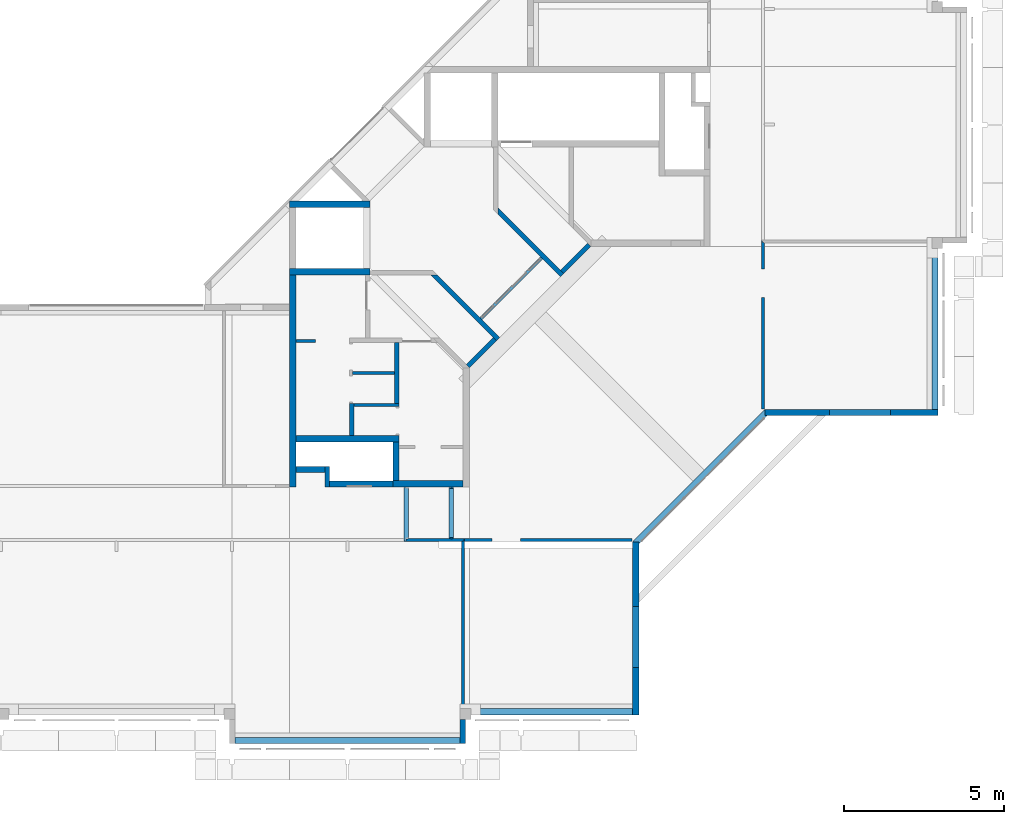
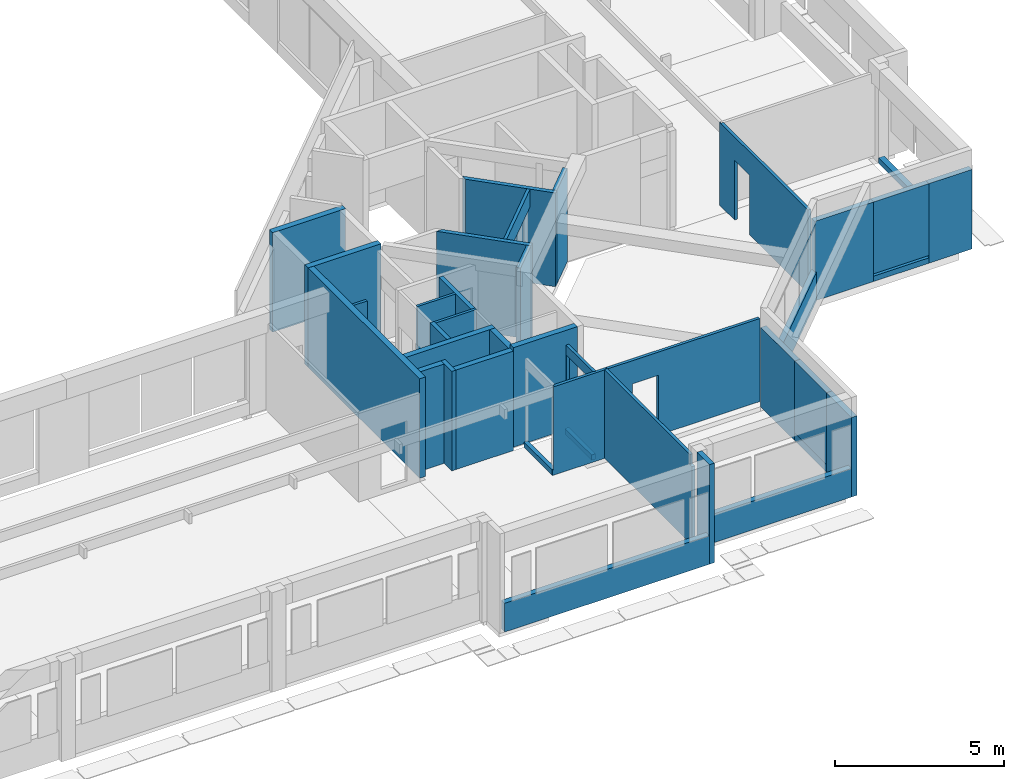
# One storey, part 14 of 26: 39 walls.
"""IFC4X3_ADD2 building model written with IfcOpenShell, lengths in millimetres."""

from ifc_helpers import new_model, si_unit, direction, frame, frame_2d, origin_with_axes, origin_2d_with_axis, place, context, subcontext, project, spatial, polyline, rectangle, outline, extrude, source, transform, mapped, material, type_object, type_shapes, element, save


model = new_model("IFC4X3_ADD2")

# Units and contexts
model_context = context("Model", 3, precision=1e-05, world=origin_with_axes(), true_north=direction((0.0, 1.0)))
body_context = subcontext(model_context, "Body", "Model", "MODEL_VIEW")
ifc_project = project(units=[si_unit("LENGTHUNIT", "METRE", prefix="MILLI"), si_unit("AREAUNIT", "SQUARE_METRE"), si_unit("VOLUMEUNIT", "CUBIC_METRE"), si_unit("PLANEANGLEUNIT", "RADIAN"), si_unit("TIMEUNIT", "SECOND"), si_unit("MASSUNIT", "GRAM")], contexts=[model_context])

# Site, building, storey
site_placement = place(None, origin_with_axes())
site = spatial("IfcSite", under=ifc_project, at=site_placement, Name="Site", CompositionType="ELEMENT")
building_placement = place(site_placement, origin_with_axes())
building = spatial("IfcBuilding", under=site, at=building_placement, Name="IFC Building Story")
storey_placement = place(building_placement, frame((0.0, 0.0, 7200.0), z_axis=(0.0, 0.0, 1.0), x_axis=(1.0, 0.0, 0.0)))
storey = spatial("IfcBuildingStorey", under=building, at=storey_placement, Name="020", Elevation=7200.0)

# Walls
ifc_material_1 = material(Name="BB_Beton_Bestaand")
wall_type_1 = type_object("IfcWallType", Name="BB_Beton_Bestaand 200", PredefinedType="NOTDEFINED", material=ifc_material_1)
wall_1_placement = place(storey_placement, origin_with_axes())
element("IfcWall", 1, at=wall_1_placement, inside=storey, type_object=wall_type_1, Name="Basic Wall:BB_XX_Wand uit beton, 200 mm", ObjectType="Basic Wall:BB_XX_Wand uit beton, 200 mm", PredefinedType="SOLIDWALL", context=body_context, shape_type="SweptSolid", body=[
    extrude(rectangle(XDim=2499.999999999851, YDim=199.9999999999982, at=origin_2d_with_axis()), frame((-18849.99999999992, 13715.0, -80.0), z_axis=(0.0, 0.0, 1.0), x_axis=(1.0, 0.0, 0.0)), (0.0, 0.0, 1.0), 3600.0),
])
wall_2_placement = place(storey_placement, origin_with_axes())
element("IfcWall", 2, at=wall_2_placement, inside=storey, type_object=wall_type_1, Name="Basic Wall:BB_XX_Wand uit beton, 200 mm", ObjectType="Basic Wall:BB_XX_Wand uit beton, 200 mm", PredefinedType="SOLIDWALL", context=body_context, shape_type="SweptSolid", body=[
    extrude(rectangle(XDim=2499.999999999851, YDim=199.9999999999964, at=origin_2d_with_axis()), frame((-18850.00000000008, 15815.0, -80.0), z_axis=(0.0, 0.0, 1.0), x_axis=(1.0, 0.0, 0.0)), (0.0, 0.0, 1.0), 3600.0),
])
wall_3_placement = place(storey_placement, origin_with_axes())
element("IfcWall", 3, at=wall_3_placement, inside=storey, type_object=wall_type_1, Name="Basic Wall:BB_XX_Wand uit beton, 200 mm", ObjectType="Basic Wall:BB_XX_Wand uit beton, 200 mm", PredefinedType="SOLIDWALL", context=body_context, shape_type="SweptSolid", body=[
    extrude(rectangle(XDim=6615.0, YDim=200.0, at=frame_2d((0.0, 0.0), x_axis=(0.0, 1.0))), frame((-20000.0, 10307.5, -80.0), z_axis=(0.0, 0.0, 1.0), x_axis=(1.0, 0.0, 0.0)), (0.0, 0.0, 1.0), 3600.0),
])
wall_4_placement = place(storey_placement, origin_with_axes())
element("IfcWall", 4, at=wall_4_placement, inside=storey, type_object=wall_type_1, Name="Basic Wall:BB_XX_Wand uit beton, 200 mm", ObjectType="Basic Wall:BB_XX_Wand uit beton, 200 mm", PredefinedType="SOLIDWALL", context=body_context, shape_type="SweptSolid", body=[
    extrude(rectangle(XDim=2190.0, YDim=200.0, at=origin_2d_with_axis()), frame((-15795.0, 7100.0, -80.0), z_axis=(0.0, 0.0, 1.0), x_axis=(1.0, 0.0, 0.0)), (0.0, 0.0, 1.0), 3600.0),
])
wall_type_2 = type_object("IfcWallType", Name="BB_Beton_Bestaand 190", PredefinedType="NOTDEFINED", material=ifc_material_1)
wall_5_placement = place(storey_placement, origin_with_axes())
element("IfcWall", 5, at=wall_5_placement, inside=storey, type_object=wall_type_2, Name="Basic Wall:BB_XX_Wand uit beton, 190 mm", ObjectType="Basic Wall:BB_XX_Wand uit beton, 190 mm", PredefinedType="SOLIDWALL", context=body_context, shape_type="SweptSolid", body=[
    extrude(rectangle(XDim=7010.000000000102, YDim=190.0, at=origin_2d_with_axis()), frame((-18300.00000000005, -900.0, -200.0), z_axis=(0.0, 0.0, 1.0), x_axis=(1.0, 0.0, 0.0)), (0.0, 0.0, 1.0), 1040.0),
])
wall_6_placement = place(storey_placement, origin_with_axes())
element("IfcWall", 6, at=wall_6_placement, inside=storey, type_object=wall_type_2, Name="Basic Wall:BB_XX_Wand uit beton, 190 mm", ObjectType="Basic Wall:BB_XX_Wand uit beton, 190 mm", PredefinedType="SOLIDWALL", context=body_context, shape_type="SweptSolid", body=[
    extrude(rectangle(XDim=5040.000000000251, YDim=190.0, at=origin_2d_with_axis()), frame((-11935.00000000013, 0.0, -200.0), z_axis=(0.0, 0.0, 1.0), x_axis=(1.0, 0.0, 0.0)), (0.0, 0.0, 1.0), 1040.0),
])
wall_7_placement = place(storey_placement, origin_with_axes())
element("IfcWall", 7, at=wall_7_placement, inside=storey, type_object=wall_type_2, Name="Basic Wall:BB_XX_Wand uit beton, 190 mm", ObjectType="Basic Wall:BB_XX_Wand uit beton, 190 mm", PredefinedType="SOLIDWALL", context=body_context, shape_type="SweptSolid", body=[
    extrude(rectangle(XDim=1890.00000000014, YDim=190.0, at=frame_2d((0.0, 0.0), x_axis=(0.0, 1.0))), frame((-9320.0, 2330.00000000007, -200.0), z_axis=(0.0, 0.0, 1.0), x_axis=(1.0, 0.0, 0.0)), (0.0, 0.0, 1.0), 280.000000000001),
])
wall_8_placement = place(storey_placement, origin_with_axes())
element("IfcWall", 8, at=wall_8_placement, inside=storey, type_object=wall_type_2, Name="Basic Wall:BB_XX_Wand uit beton, 190 mm", ObjectType="Basic Wall:BB_XX_Wand uit beton, 190 mm", PredefinedType="SOLIDWALL", context=body_context, shape_type="SweptSolid", body=[
    extrude(rectangle(XDim=1480.0, YDim=190.0, at=frame_2d((0.0, 0.0), x_axis=(0.0, 1.0))), frame((-9320.0, 644.999999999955, -200.0), z_axis=(0.0, 0.0, 1.0), x_axis=(1.0, 0.0, 0.0)), (0.0, 0.0, 1.0), 2880.0),
])
wall_9_placement = place(storey_placement, origin_with_axes())
element("IfcWall", 9, at=wall_9_placement, inside=storey, type_object=wall_type_2, Name="Basic Wall:BB_XX_Wand uit beton, 190 mm", ObjectType="Basic Wall:BB_XX_Wand uit beton, 190 mm", PredefinedType="SOLIDWALL", context=body_context, shape_type="SweptSolid", body=[
    extrude(rectangle(XDim=2014.99999999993, YDim=190.0, at=frame_2d((0.0, 0.0), x_axis=(0.0, 1.0))), frame((-9320.0, 4282.499999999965, -200.0), z_axis=(0.0, 0.0, 1.0), x_axis=(1.0, 0.0, 0.0)), (0.0, 0.0, 1.0), 2880.0),
])
wall_10_placement = place(storey_placement, origin_with_axes())
element("IfcWall", 10, at=wall_10_placement, inside=storey, type_object=wall_type_2, Name="Basic Wall:BB_XX_Wand uit beton, 190 mm", ObjectType="Basic Wall:BB_XX_Wand uit beton, 190 mm", PredefinedType="SOLIDWALL", context=body_context, shape_type="SweptSolid", body=[
    extrude(rectangle(XDim=1890.0, YDim=190.0, at=origin_2d_with_axis()), frame((-2330.0, 9320.0, -200.0), z_axis=(0.0, 0.0, 1.0), x_axis=(1.0, 0.0, 0.0)), (0.0, 0.0, 1.0), 194.999999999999),
])
wall_11_placement = place(storey_placement, origin_with_axes())
element("IfcWall", 11, at=wall_11_placement, inside=storey, type_object=wall_type_2, Name="Basic Wall:BB_XX_Wand uit beton, 190 mm", ObjectType="Basic Wall:BB_XX_Wand uit beton, 190 mm", PredefinedType="SOLIDWALL", context=body_context, shape_type="SweptSolid", body=[
    extrude(rectangle(XDim=1479.99999999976, YDim=190.0, at=origin_2d_with_axis()), frame((-644.99999999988, 9320.0, -200.0), z_axis=(0.0, 0.0, 1.0), x_axis=(1.0, 0.0, 0.0)), (0.0, 0.0, 1.0), 2880.0),
])
wall_12_placement = place(storey_placement, origin_with_axes())
element("IfcWall", 12, at=wall_12_placement, inside=storey, type_object=wall_type_2, Name="Basic Wall:BB_XX_Wand uit beton, 190 mm", ObjectType="Basic Wall:BB_XX_Wand uit beton, 190 mm", PredefinedType="SOLIDWALL", context=body_context, shape_type="SweptSolid", body=[
    extrude(rectangle(XDim=2015.00000000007, YDim=190.0, at=origin_2d_with_axis()), frame((-4282.500000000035, 9320.0, -200.0), z_axis=(0.0, 0.0, 1.0), x_axis=(1.0, 0.0, 0.0)), (0.0, 0.0, 1.0), 2880.0),
])
wall_13_placement = place(storey_placement, origin_with_axes())
element("IfcWall", 13, at=wall_13_placement, inside=storey, type_object=wall_type_2, Name="Basic Wall:BB_XX_Wand uit beton, 190 mm", ObjectType="Basic Wall:BB_XX_Wand uit beton, 190 mm", PredefinedType="SOLIDWALL", context=body_context, shape_type="SweptSolid", body=[
    extrude(rectangle(XDim=5040.000000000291, YDim=190.0, at=frame_2d((0.0, 0.0), x_axis=(0.0, 1.0))), frame((0.0, 11934.99999999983, -200.0), z_axis=(0.0, 0.0, 1.0), x_axis=(1.0, 0.0, 0.0)), (0.0, 0.0, 1.0), 194.999999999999),
])
wall_type_3 = type_object("IfcWallType", Name="BB_Beton_Bestaand 170", PredefinedType="NOTDEFINED", material=ifc_material_1)
wall_14_placement = place(storey_placement, origin_with_axes())
element("IfcWall", 14, at=wall_14_placement, inside=storey, type_object=wall_type_3, Name="Basic Wall:BB_XX_Wand uit beton, 170 mm", ObjectType="Basic Wall:BB_XX_Wand uit beton, 170 mm", PredefinedType="SOLIDWALL", context=body_context, shape_type="SweptSolid", body=[
    extrude(rectangle(XDim=750.000000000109, YDim=170.0, at=frame_2d((0.0, 0.0), x_axis=(0.0, 1.0))), frame((-14710.0, -620.0000000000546, -200.0), z_axis=(0.0, 0.0, 1.0), x_axis=(1.0, 0.0, 0.0)), (0.0, 0.0, 1.0), 3600.0),
])
ifc_material_2 = material(Name="BB_Metselwerk_Bestaand")
wall_type_4 = type_object("IfcWallType", Name="BB_Metselwerk_Bestaand 140", PredefinedType="NOTDEFINED", material=ifc_material_2)
wall_15_placement = place(storey_placement, origin_with_axes())
element("IfcWall", 15, at=wall_15_placement, inside=storey, type_object=wall_type_4, Name="Basic Wall:BB_XX_Wand uit metselwerk, 140 mm", ObjectType="Basic Wall:BB_XX_Wand uit metselwerk, 140 mm", PredefinedType="SOLIDWALL", context=body_context, shape_type="SweptSolid", body=[
    extrude(rectangle(XDim=639.9999999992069, YDim=140.0, at=frame_2d((0.0, 0.0), x_axis=(0.0, 1.0))), frame((-18930.1640790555, 7319.999999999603, -200.0), z_axis=(0.0, 0.0, 1.0), x_axis=(1.0, 0.0, 0.0)), (0.0, 0.0, 1.0), 3600.0),
])
wall_16_placement = place(storey_placement, origin_with_axes())
element("IfcWall", 16, at=wall_16_placement, inside=storey, type_object=wall_type_4, Name="Basic Wall:BB_XX_Wand uit metselwerk, 140 mm", ObjectType="Basic Wall:BB_XX_Wand uit metselwerk, 140 mm", PredefinedType="SOLIDWALL", context=body_context, shape_type="SweptSolid", body=[
    extrude(rectangle(XDim=1000.0, YDim=140.0, at=frame_2d((0.0, 0.0), x_axis=(0.0, 1.0))), frame((-18170.0, 9100.0, -80.0), z_axis=(0.0, 0.0, 1.0), x_axis=(1.0, 0.0, 0.0)), (0.0, 0.0, 1.0), 3400.0),
])
wall_17_placement = place(storey_placement, origin_with_axes())
element("IfcWall", 17, at=wall_17_placement, inside=storey, type_object=wall_type_4, Name="Basic Wall:BB_XX_Wand uit metselwerk, 140 mm", ObjectType="Basic Wall:BB_XX_Wand uit metselwerk, 140 mm", PredefinedType="SOLIDWALL", context=body_context, shape_type="SweptSolid", body=[
    extrude(rectangle(XDim=1910.00000000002, YDim=140.0, at=frame_2d((0.0, 0.0), x_axis=(0.0, 1.0))), frame((-16770.0, 10554.99999999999, -80.0), z_axis=(0.0, 0.0, 1.0), x_axis=(1.0, 0.0, 0.0)), (0.0, 0.0, 1.0), 3400.0),
])
wall_type_5 = type_object("IfcWallType", Name="BB_Metselwerk_Bestaand 190", PredefinedType="NOTDEFINED", material=ifc_material_2)
wall_18_placement = place(storey_placement, origin_with_axes())
element("IfcWall", 18, at=wall_18_placement, inside=storey, type_object=wall_type_5, Name="Basic Wall:BB_XX_Wand uit metselwerk, 190 mm", ObjectType="Basic Wall:BB_XX_Wand uit metselwerk, 190 mm", PredefinedType="SOLIDWALL", context=body_context, shape_type="SweptSolid", body=[
    extrude(rectangle(XDim=1970.164079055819, YDim=190.0, at=origin_2d_with_axis()), frame((-17875.08203952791, 7095.0, -200.0), z_axis=(0.0, 0.0, 1.0), x_axis=(1.0, 0.0, 0.0)), (0.0, 0.0, 1.0), 3600.0),
])
wall_19_placement = place(storey_placement, origin_with_axes())
element("IfcWall", 19, at=wall_19_placement, inside=storey, type_object=wall_type_5, Name="Basic Wall:BB_XX_Wand uit metselwerk, 190 mm", ObjectType="Basic Wall:BB_XX_Wand uit metselwerk, 190 mm", PredefinedType="SOLIDWALL", context=body_context, shape_type="SweptSolid", body=[
    extrude(rectangle(XDim=899.8359209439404, YDim=190.0, at=origin_2d_with_axis()), frame((-19450.08203952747, 7545.0, -200.0), z_axis=(0.0, 0.0, 1.0), x_axis=(1.0, 0.0, 0.0)), (0.0, 0.0, 1.0), 3600.0),
])
wall_20_placement = place(storey_placement, origin_with_axes())
element("IfcWall", 20, at=wall_20_placement, inside=storey, type_object=wall_type_5, Name="Basic Wall:BB_XX_Wand uit metselwerk, 190 mm", ObjectType="Basic Wall:BB_XX_Wand uit metselwerk, 190 mm", PredefinedType="SOLIDWALL", context=body_context, shape_type="SweptSolid", body=[
    extrude(rectangle(XDim=3199.884221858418, YDim=190.0, at=origin_2d_with_axis()), frame((-18300.05788907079, 8505.0, -80.0), z_axis=(0.0, 0.0, 1.0), x_axis=(1.0, 0.0, 0.0)), (0.0, 0.0, 1.0), 3400.0),
])
wall_21_placement = place(storey_placement, origin_with_axes())
element("IfcWall", 21, at=wall_21_placement, inside=storey, type_object=wall_type_5, Name="Basic Wall:BB_XX_Wand uit metselwerk, 190 mm", ObjectType="Basic Wall:BB_XX_Wand uit metselwerk, 190 mm", PredefinedType="SOLIDWALL", context=body_context, shape_type="SweptSolid", body=[
    extrude(rectangle(XDim=1210.00000000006, YDim=190.0, at=frame_2d((0.0, 0.0), x_axis=(0.0, 1.0))), frame((-16795.1157781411, 7804.99999999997, -80.0), z_axis=(0.0, 0.0, 1.0), x_axis=(1.0, 0.0, 0.0)), (0.0, 0.0, 1.0), 3400.0),
])
ifc_material_3 = material(Name="BB_Metselwerk_Betonsteen")
wall_type_6 = type_object("IfcWallType", Name="BB_Metselwerk_Betonsteen 190", PredefinedType="NOTDEFINED", material=ifc_material_3)
wall_22_placement = place(storey_placement, origin_with_axes())
element("IfcWall", 22, at=wall_22_placement, inside=storey, type_object=wall_type_6, Name="Basic Wall:BB_03.09.24#03_Wand uit metselwerk, 190 mm", ObjectType="Basic Wall:BB_03.09.24#03_Wand uit metselwerk, 190 mm", PredefinedType="SOLIDWALL", context=body_context, shape_type="SweptSolid", body=[
    extrude(rectangle(XDim=1890.00000000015, YDim=190.0, at=frame_2d((0.0, 0.0), x_axis=(0.0, 1.0))), frame((-9320.0, 2329.999999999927, 80.0), z_axis=(0.0, 0.0, 1.0), x_axis=(1.0, 0.0, 0.0)), (0.0, 0.0, 1.0), 2600.0),
])
wall_23_placement = place(storey_placement, origin_with_axes())
element("IfcWall", 23, at=wall_23_placement, inside=storey, type_object=wall_type_6, Name="Basic Wall:BB_03.09.24#03_Wand uit metselwerk, 190 mm", ObjectType="Basic Wall:BB_03.09.24#03_Wand uit metselwerk, 190 mm", PredefinedType="SOLIDWALL", context=body_context, shape_type="SweptSolid", body=[
    extrude(rectangle(XDim=1890.00000000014, YDim=190.0, at=origin_2d_with_axis()), frame((-2329.99999999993, 9320.0, 80.0), z_axis=(0.0, 0.0, 1.0), x_axis=(1.0, 0.0, 0.0)), (0.0, 0.0, 1.0), 2600.0),
])
wall_24_placement = place(storey_placement, origin_with_axes())
element("IfcWall", 24, at=wall_24_placement, inside=storey, type_object=wall_type_6, Name="Basic Wall:BB_03.09.24#05_Wand uit metselwerk_EI60, 190 mm", ObjectType="Basic Wall:BB_03.09.24#05_Wand uit metselwerk_EI60, 190 mm", PredefinedType="SOLIDWALL", context=body_context, shape_type="SweptSolid", body=[
    extrude(rectangle(XDim=5815.0, YDim=189.9999999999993, at=frame_2d((0.0, 0.0), x_axis=(0.7071067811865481, 0.7071067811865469))), frame((-7292.438398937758, 7291.911889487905, -200.0), z_axis=(0.0, 0.0, 1.0), x_axis=(1.0, 0.0, 0.0)), (0.0, 0.0, 1.0), 1040.0),
])
wall_type_7 = type_object("IfcWallType", Name="Basic Wall_BB_10.01.41#03_Gipskartonwand_43dB_MS100 _ 25.50.25_ 100 mm59", PredefinedType="NOTDEFINED")
shared_shape_1 = source(origin_with_axes(), body_context, "Body", "SweptSolid", [
    extrude(outline(polyline([(1980.625000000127, 1290.0), (1980.625000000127, -1710.0), (-3266.875000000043, -1710.0), (-3266.875000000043, 1290.0), (198.1249999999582, 1290.0), (198.1249999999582, -870.0), (1088.124999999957, -870.0), (1088.124999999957, 1290.0), (1980.625000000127, 1290.0)])), frame((3266.875000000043, 37.50000000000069, 1290.0), z_axis=(0.0, 1.0, 0.0), x_axis=(1.0, 0.0, 0.0)), (0.0, 0.0, 1.0), 12.49999999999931),
    extrude(outline(polyline([(-3263.750000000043, 1290.0), (201.2499999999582, 1290.0), (201.2499999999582, -870.0), (1091.249999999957, -870.0), (1091.249999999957, 1290.0), (1971.250000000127, 1290.0), (1971.250000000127, -1710.0), (-3263.750000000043, -1710.0), (-3263.750000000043, 1290.0)])), frame((3263.750000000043, 24.9999999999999, 1290.0), z_axis=(0.0, 1.0, 0.0), x_axis=(1.0, 0.0, 0.0)), (0.0, 0.0, 1.0), 12.50000000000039),
    extrude(outline(polyline([(-3251.250000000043, 1290.0), (213.7499999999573, 1290.0), (213.7499999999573, -870.0), (1103.749999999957, -870.0), (1103.749999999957, 1290.0), (1933.750000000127, 1290.0), (1933.750000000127, -1710.0), (-3251.250000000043, -1710.0), (-3251.250000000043, 1290.0)])), frame((3251.250000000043, -24.9999999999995, 1290.0), z_axis=(0.0, 1.0, 0.0), x_axis=(1.0, 0.0, 0.0)), (0.0, 0.0, 1.0), 49.9999999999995),
    extrude(outline(polyline([(-3248.125000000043, 1290.0), (216.8749999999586, 1290.0), (216.8749999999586, -870.0), (1106.874999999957, -870.0), (1106.874999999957, 1290.0), (1924.375000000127, 1290.0), (1924.375000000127, -1710.0), (-3248.125000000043, -1710.0), (-3248.125000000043, 1290.0)])), frame((3248.125000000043, -37.5000000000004, 1290.0), z_axis=(0.0, 1.0, 0.0), x_axis=(1.0, 0.0, 0.0)), (0.0, 0.0, 1.0), 12.5000000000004),
    extrude(outline(polyline([(-3245.000000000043, 1290.0), (219.9999999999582, 1290.0), (219.9999999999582, -870.0), (1109.999999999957, -870.0), (1109.999999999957, 1290.0), (1915.000000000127, 1290.0), (1915.000000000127, -1710.0), (-3245.000000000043, -1710.0), (-3245.000000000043, 1290.0)])), frame((3245.000000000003, -50.0, 1290.0), z_axis=(0.0, 1.0, 0.0), x_axis=(1.0, 0.0, 0.0)), (0.0, 0.0, 1.0), 12.5000000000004),
])
type_shapes(wall_type_7, [shared_shape_1])
wall_25_placement = place(storey_placement, frame((-5350.0, 9440.0, 0.0), z_axis=(0.0, 0.0, 1.0), x_axis=(0.0, 1.0, 0.0)))
element("IfcWall", 25, at=wall_25_placement, inside=storey, type_object=wall_type_7, Name="Basic Wall:BB_10.01.41#03_Gipskartonwand_43dB_MS100 / 25.50.25, 100 mm", ObjectType="Basic Wall:BB_10.01.41#03_Gipskartonwand_43dB_MS100 / 25.50.25, 100 mm", PredefinedType="PARTITIONING", context=body_context, shape_type="MappedRepresentation", body=[
    mapped(shared_shape_1, transform((0.0, 0.0, 0.0))),
])
wall_type_8 = type_object("IfcWallType", Name="Basic Wall_BB_10.01.41#03_Gipskartonwand_43dB_MS100 _ 25.50.25_ 100 mm61", PredefinedType="NOTDEFINED")
shared_shape_2 = source(origin_with_axes(), body_context, "Body", "SweptSolid", [
    extrude(outline(polyline([(-209.9999999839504, -872.5000000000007), (-209.9999999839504, 1292.5), (3259.99999998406, 1292.5), (3259.99999998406, -1712.5), (-1950.00000001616, -1712.5), (-1950.00000001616, 1292.5), (-1099.99999998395, 1292.5), (-1099.99999998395, -872.5000000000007), (-209.9999999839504, -872.5000000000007)])), frame((1950.0, 37.50000000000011, 1292.5), z_axis=(0.0, 1.0, 0.0), x_axis=(1.0, 0.0, 0.0)), (0.0, 0.0, 1.0), 12.4999999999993),
    extrude(outline(polyline([(-209.9999999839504, -872.5000000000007), (-209.9999999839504, 1292.5), (3259.99999998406, 1292.5), (3259.99999998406, -1712.5), (-1950.00000001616, -1712.5), (-1950.00000001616, 1292.5), (-1099.99999998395, 1292.5), (-1099.99999998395, -872.5000000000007), (-209.9999999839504, -872.5000000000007)])), frame((1950.0, 25.0, 1292.5), z_axis=(0.0, 1.0, 0.0), x_axis=(1.0, 0.0, 0.0)), (0.0, 0.0, 1.0), 12.5000000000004),
    extrude(outline(polyline([(-209.9999999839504, -872.5000000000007), (-209.9999999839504, 1292.5), (3259.99999998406, 1292.5), (3259.99999998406, -1712.5), (-1950.00000001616, -1712.5), (-1950.00000001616, 1292.5), (-1099.99999998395, 1292.5), (-1099.99999998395, -872.5000000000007), (-209.9999999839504, -872.5000000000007)])), frame((1950.0, -25.0, 1292.5), z_axis=(0.0, 1.0, 0.0), x_axis=(1.0, 0.0, 0.0)), (0.0, 0.0, 1.0), 49.9999999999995),
    extrude(outline(polyline([(-209.9999999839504, -872.5000000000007), (-209.9999999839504, 1292.5), (3259.99999998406, 1292.5), (3259.99999998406, -1712.5), (-1950.00000001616, -1712.5), (-1950.00000001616, 1292.5), (-1099.99999998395, 1292.5), (-1099.99999998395, -872.5000000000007), (-209.9999999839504, -872.5000000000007)])), frame((1950.0, -37.50000000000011, 1292.5), z_axis=(0.0, 1.0, 0.0), x_axis=(1.0, 0.0, 0.0)), (0.0, 0.0, 1.0), 12.50000000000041),
    extrude(outline(polyline([(3259.99999998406, 1292.5), (3259.99999998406, -1712.5), (-1950.00000001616, -1712.5), (-1950.00000001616, 1292.5), (-1099.99999998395, 1292.5), (-1099.99999998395, -872.5000000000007), (-209.9999999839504, -872.5000000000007), (-209.9999999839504, 1292.5), (3259.99999998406, 1292.5)])), frame((1950.0, -50.0, 1292.5), z_axis=(0.0, 1.0, 0.0), x_axis=(1.0, 0.0, 0.0)), (0.0, 0.0, 1.0), 12.5000000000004),
])
type_shapes(wall_type_8, [shared_shape_2])
wall_26_placement = place(storey_placement, frame((-14650.0, 5350.0, -5.0), z_axis=(0.0, 0.0, 1.0), x_axis=(1.0, 0.0, 0.0)))
element("IfcWall", 26, at=wall_26_placement, inside=storey, type_object=wall_type_8, Name="Basic Wall:BB_10.01.41#03_Gipskartonwand_43dB_MS100 / 25.50.25, 100 mm", ObjectType="Basic Wall:BB_10.01.41#03_Gipskartonwand_43dB_MS100 / 25.50.25, 100 mm", PredefinedType="PARTITIONING", context=body_context, shape_type="MappedRepresentation", body=[
    mapped(shared_shape_2, transform((0.0, 0.0, 0.0))),
])
wall_type_9 = type_object("IfcWallType", Name="Basic Wall_BB_10.01.41#21_Gipskartonwand_EI60_43dB_MS100 _ 25.50.25_ 100 mm47", PredefinedType="NOTDEFINED")
shared_shape_3 = source(origin_with_axes(), body_context, "Body", "SweptSolid", [
    extrude(outline(polyline([(-579.1666666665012, 936.6666666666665), (-579.1666666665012, 1131.666666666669), (1170.833333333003, 1131.666666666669), (1170.833333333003, -2068.333333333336), (-591.6666666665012, -2068.333333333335), (-591.6666666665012, 936.666666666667), (-579.1666666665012, 936.6666666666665)])), frame((679.1666666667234, 37.5000000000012, 1131.666666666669), z_axis=(0.0, 1.0, 0.0), x_axis=(1.0, 0.0, 0.0)), (0.0, 0.0, 1.0), 12.4999999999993),
    extrude(outline(polyline([(-570.833333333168, 936.6666666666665), (-570.833333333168, 1131.666666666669), (1166.666666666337, 1131.666666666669), (1166.666666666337, -2068.333333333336), (-595.8333333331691, -2068.333333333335), (-595.833333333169, 936.666666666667), (-570.833333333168, 936.6666666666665)])), frame((670.833333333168, 25.0, 1131.666666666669), z_axis=(0.0, 1.0, 0.0), x_axis=(1.0, 0.0, 0.0)), (0.0, 0.0, 1.0), 12.5000000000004),
    extrude(outline(polyline([(-549.9999999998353, 936.6666666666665), (-549.9999999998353, 1131.666666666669), (1174.999999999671, 1131.666666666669), (1174.999999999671, -2068.333333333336), (-624.9999999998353, -2068.333333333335), (-624.9999999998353, 936.666666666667), (-549.9999999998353, 936.6666666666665)])), frame((650.0000000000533, -25.0, 1131.666666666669), z_axis=(0.0, 1.0, 0.0), x_axis=(1.0, 0.0, 0.0)), (0.0, 0.0, 1.0), 49.9999999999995),
    extrude(outline(polyline([(-622.4999999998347, 1131.666666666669), (1192.49999999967, 1131.666666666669), (1192.49999999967, -2068.333333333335), (-569.9999999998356, -2068.333333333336), (-569.9999999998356, 936.6666666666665), (-622.4999999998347, 936.6666666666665), (-622.4999999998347, 1131.666666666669)])), frame((582.4999999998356, -37.4999999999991, 1131.666666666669), z_axis=(0.0, 1.0, 0.0), x_axis=(1.0, 0.0, 0.0)), (0.0, 0.0, 1.0), 12.5000000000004),
    extrude(outline(polyline([(-614.1666666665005, 1131.666666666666), (1188.333333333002, 1131.666666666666), (1188.333333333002, -2068.333333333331), (-574.1666666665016, -2068.333333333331), (-574.1666666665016, 936.6666666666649), (-614.1666666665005, 936.6666666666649), (-614.1666666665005, 1131.666666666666)])), frame((574.1666666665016, -50.0, 1131.666666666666), z_axis=(0.0, 1.0, 0.0), x_axis=(1.0, 0.0, 0.0)), (0.0, 0.0, 1.0), 12.5000000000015),
])
type_shapes(wall_type_9, [shared_shape_3])
wall_27_placement = place(storey_placement, frame((-16500.0, 5350.0, -200.0), z_axis=(0.0, 0.0, 1.0), x_axis=(1.0, 0.0, 0.0)))
element("IfcWall", 27, at=wall_27_placement, inside=storey, type_object=wall_type_9, Name="Basic Wall:BB_10.01.41#21_Gipskartonwand_EI60_43dB_MS100 / 25.50.25, 100 mm", ObjectType="Basic Wall:BB_10.01.41#21_Gipskartonwand_EI60_43dB_MS100 / 25.50.25, 100 mm", PredefinedType="PARTITIONING", context=body_context, shape_type="MappedRepresentation", body=[
    mapped(shared_shape_3, transform((0.0, 0.0, 0.0))),
])
wall_type_10 = type_object("IfcWallType", Name="Basic Wall_BB_10.01.41#21_Gipskartonwand_EI60_43dB_MS100 _ 25.50.25_ 100 mm49", PredefinedType="NOTDEFINED")
shared_shape_4 = source(origin_with_axes(), body_context, "Body", "SweptSolid", [
    extrude(outline(polyline([(-3466.666666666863, 2013.333333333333), (1800.833333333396, 2013.333333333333), (1800.833333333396, -826.6666666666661), (1665.833333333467, -826.6666666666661), (1665.833333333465, -1186.666666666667), (-3466.666666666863, -1186.666666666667), (-3466.666666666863, 2013.333333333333)])), frame((3379.166666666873, 37.5, 2013.333333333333), z_axis=(0.0, 1.0, 0.0), x_axis=(1.0, 0.0, 0.0)), (0.0, 0.0, 1.0), 12.49999999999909),
    extrude(outline(polyline([(-3458.333333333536, 2013.333333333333), (1796.666666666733, 2013.333333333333), (1796.666666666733, -826.6666666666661), (1661.666666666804, -826.6666666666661), (1661.666666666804, -1186.666666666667), (-3458.333333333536, -1186.666666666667), (-3458.333333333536, 2013.333333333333)])), frame((3383.333333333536, 25.0, 2013.333333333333), z_axis=(0.0, 1.0, 0.0), x_axis=(1.0, 0.0, 0.0)), (0.0, 0.0, 1.0), 12.49999999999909),
    extrude(outline(polyline([(-3428.333333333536, 2013.333333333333), (1776.666666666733, 2013.333333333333), (1776.666666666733, -826.6666666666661), (1651.666666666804, -826.6666666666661), (1651.666666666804, -1186.666666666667), (-3428.333333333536, -1186.666666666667), (-3428.333333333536, 2013.333333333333)])), frame((3403.333333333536, -25.0, 2013.333333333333), z_axis=(0.0, 1.0, 0.0), x_axis=(1.0, 0.0, 0.0)), (0.0, 0.0, 1.0), 50.0),
    extrude(outline(polyline([(-3416.666666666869, 2013.333333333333), (1775.833333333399, 2013.333333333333), (1775.833333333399, -826.6666666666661), (1640.83333333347, -826.6666666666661), (1640.83333333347, -1186.666666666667), (-3416.666666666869, -1186.666666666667), (-3416.666666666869, 2013.333333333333)])), frame((3404.16666666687, -37.5, 2013.333333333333), z_axis=(0.0, 1.0, 0.0), x_axis=(1.0, 0.0, 0.0)), (0.0, 0.0, 1.0), 12.5),
    extrude(outline(polyline([(-3408.33333333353, 2013.333333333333), (1771.66666666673, 2013.333333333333), (1771.66666666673, -826.6666666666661), (1636.666666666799, -826.6666666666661), (1636.666666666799, -1186.666666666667), (-3408.33333333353, -1186.666666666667), (-3408.33333333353, 2013.333333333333)])), frame((3408.33333333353, -50.0, 2013.333333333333), z_axis=(0.0, 1.0, 0.0), x_axis=(1.0, 0.0, 0.0)), (0.0, 0.0, 1.0), 12.5),
])
type_shapes(wall_type_10, [shared_shape_4])
wall_28_placement = place(storey_placement, frame((-14700.0, 5300.0, -200.0), z_axis=(0.0, 0.0, 1.0), x_axis=(0.0, -1.0, 0.0)))
element("IfcWall", 28, at=wall_28_placement, inside=storey, type_object=wall_type_10, Name="Basic Wall:BB_10.01.41#21_Gipskartonwand_EI60_43dB_MS100 / 25.50.25, 100 mm", ObjectType="Basic Wall:BB_10.01.41#21_Gipskartonwand_EI60_43dB_MS100 / 25.50.25, 100 mm", PredefinedType="PARTITIONING", context=body_context, shape_type="MappedRepresentation", body=[
    mapped(shared_shape_4, transform((0.0, 0.0, 0.0))),
])
wall_type_11 = type_object("IfcWallType", Name="Basic Wall_BB_10.01.41#21_Gipskartonwand_EI60_43dB_MS100 _ 25.50.25_ 100 mm67", PredefinedType="NOTDEFINED")
shared_shape_5 = source(origin_with_axes(), body_context, "Body", "SweptSolid", [
    extrude(outline(polyline([(-793.7499999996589, 1415.0), (-758.7500000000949, 1415.0), (-758.7500000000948, -1235.0), (761.2499999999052, -1235.0), (761.2499999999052, 1415.0), (791.2499999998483, 1415.0), (791.249999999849, -1595.0), (-793.7499999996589, -1595.0), (-793.7499999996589, 1415.0)])), frame((793.7499999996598, 37.50000000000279, 1415.0), z_axis=(0.0, 1.0, 0.0), x_axis=(1.0, 0.0, 0.0)), (0.0, 0.0, 1.0), 12.49999999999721),
    extrude(outline(polyline([(-803.1249999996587, 1415.0), (-755.6250000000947, 1415.0), (-755.6250000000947, -1235.0), (764.3749999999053, -1235.0), (764.3749999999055, 1415.0), (794.3749999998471, 1415.0), (794.3749999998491, -1595.0), (-803.1249999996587, -1595.0), (-803.1249999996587, 1415.0)])), frame((790.6249999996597, 25.0, 1415.0), z_axis=(0.0, 1.0, 0.0), x_axis=(1.0, 0.0, 0.0)), (0.0, 0.0, 1.0), 12.4999999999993),
    extrude(outline(polyline([(-974.9999999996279, 1669.999999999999), (-915.0000000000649, 1669.999999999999), (-915.0000000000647, -980.0), (604.9999999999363, -980.0), (604.9999999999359, 1669.999999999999), (649.9999999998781, 1669.999999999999), (649.9999999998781, -1019.999999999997), (634.9999999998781, -1019.999999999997), (634.999999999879, -1340.000000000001), (-974.9999999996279, -1340.000000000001), (-974.9999999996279, 1669.999999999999)])), frame((949.9999999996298, -25.0000000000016, 1669.999999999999), z_axis=(0.0, 1.0, 0.0), x_axis=(1.0, 0.0, 0.0)), (0.0, 0.0, 1.0), 50.00000000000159),
    extrude(outline(polyline([(-793.7499999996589, 1415.0), (-758.7500000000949, 1415.0), (-758.7500000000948, -1235.0), (761.2499999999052, -1235.0), (761.2499999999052, 1415.0), (791.2499999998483, 1415.0), (791.249999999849, -1595.0), (-793.7499999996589, -1595.0), (-793.7499999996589, 1415.0)])), frame((793.7499999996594, -37.5000000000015, 1415.0), z_axis=(0.0, 1.0, 0.0), x_axis=(1.0, 0.0, 0.0)), (0.0, 0.0, 1.0), 12.5000000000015),
    extrude(outline(polyline([(-793.7499999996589, 1415.0), (-758.7500000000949, 1415.0), (-758.7500000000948, -1235.0), (761.2499999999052, -1235.0), (761.2499999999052, 1415.0), (791.2499999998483, 1415.0), (791.249999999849, -1595.0), (-793.7499999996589, -1595.0), (-793.7499999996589, 1415.0)])), frame((793.7499999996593, -50.0, 1415.0), z_axis=(0.0, 1.0, 0.0), x_axis=(1.0, 0.0, 0.0)), (0.0, 0.0, 1.0), 12.4999999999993),
])
type_shapes(wall_type_11, [shared_shape_5])
wall_29_placement = place(storey_placement, frame((-15050.0, 5400.0, -10.0), z_axis=(0.0, 0.0, 1.0), x_axis=(0.0, 1.0, 0.0)))
element("IfcWall", 29, at=wall_29_placement, inside=storey, type_object=wall_type_11, Name="Basic Wall:BB_10.01.41#21_Gipskartonwand_EI60_43dB_MS100 / 25.50.25, 100 mm", ObjectType="Basic Wall:BB_10.01.41#21_Gipskartonwand_EI60_43dB_MS100 / 25.50.25, 100 mm", PredefinedType="PARTITIONING", context=body_context, shape_type="MappedRepresentation", body=[
    mapped(shared_shape_5, transform((0.0, 0.0, 0.0))),
])
wall_type_12 = type_object("IfcWallType", Name="Basic Wall_BB_10.01.41#21_Gipskartonwand_EI60_43dB_MS100 _ 25.50.25_ 100 mm69", PredefinedType="NOTDEFINED")
shared_shape_6 = source(origin_with_axes(), body_context, "Body", "SweptSolid", [
    extrude(rectangle(XDim=2679.99999999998, YDim=12.49999999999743, at=origin_2d_with_axis()), frame((1340.0, 43.74999999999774, 0.0), z_axis=(0.0, 0.0, 1.0), x_axis=(1.0, 0.0, 0.0)), (0.0, 0.0, 1.0), 640.000000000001),
    extrude(rectangle(XDim=2680.0, YDim=12.5000000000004, at=origin_2d_with_axis()), frame((1339.999999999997, 31.2499999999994, 0.0), z_axis=(0.0, 0.0, 1.0), x_axis=(1.0, 0.0, 0.0)), (0.0, 0.0, 1.0), 640.000000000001),
    extrude(rectangle(XDim=2680.0, YDim=50.0000000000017, at=origin_2d_with_axis()), frame((1339.999999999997, 0.0, 0.0), z_axis=(0.0, 0.0, 1.0), x_axis=(1.0, 0.0, 0.0)), (0.0, 0.0, 1.0), 640.000000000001),
    extrude(rectangle(XDim=2680.0, YDim=12.5000000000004, at=origin_2d_with_axis()), frame((1339.999999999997, -31.2500000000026, 0.0), z_axis=(0.0, 0.0, 1.0), x_axis=(1.0, 0.0, 0.0)), (0.0, 0.0, 1.0), 640.000000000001),
    extrude(rectangle(XDim=2679.99999999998, YDim=12.50000000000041, at=origin_2d_with_axis()), frame((1340.000000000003, -43.750000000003, 0.0), z_axis=(0.0, 0.0, 1.0), x_axis=(1.0, 0.0, 0.0)), (0.0, 0.0, 1.0), 640.000000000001),
])
type_shapes(wall_type_12, [shared_shape_6])
wall_30_placement = place(storey_placement, frame((-12250.7164409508, 14145.762614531, 2670.0), z_axis=(0.0, 0.0, 1.0), x_axis=(-0.7071067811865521, -0.707106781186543, 0.0)))
element("IfcWall", 30, at=wall_30_placement, inside=storey, type_object=wall_type_12, Name="Basic Wall:BB_10.01.41#21_Gipskartonwand_EI60_43dB_MS100 / 25.50.25, 100 mm", ObjectType="Basic Wall:BB_10.01.41#21_Gipskartonwand_EI60_43dB_MS100 / 25.50.25, 100 mm", PredefinedType="PARTITIONING", context=body_context, shape_type="MappedRepresentation", body=[
    mapped(shared_shape_6, transform((0.0, 0.0, 0.0))),
])
wall_type_13 = type_object("IfcWallType", Name="BB_Metselwerk_Betonsteen 140", PredefinedType="NOTDEFINED", material=ifc_material_3)
wall_31_placement = place(storey_placement, origin_with_axes())
element("IfcWall", 31, at=wall_31_placement, inside=storey, type_object=wall_type_13, Name="Basic Wall:BB_03.09.24#02_Wand uit metselwerk_EI60_43dB, 140 mm", ObjectType="Basic Wall:BB_03.09.24#02_Wand uit metselwerk_EI60_43dB, 140 mm", PredefinedType="SOLIDWALL", context=body_context, shape_type="SweptSolid", body=[
    extrude(outline(polyline([(952.6101233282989, -1051.605072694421), (-1101.102547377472, 1002.107598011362), (-903.1126486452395, 1002.107598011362), (1051.605072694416, -952.6101233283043), (952.6101233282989, -1051.605072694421)])), frame((-14606.93352493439, 12612.89240198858, -80.0), z_axis=(0.0, 0.0, 1.0), x_axis=(1.0, 0.0, 0.0)), (0.0, 0.0, 1.0), 3390.0),
])
wall_32_placement = place(storey_placement, origin_with_axes())
element("IfcWall", 32, at=wall_32_placement, inside=storey, type_object=wall_type_13, Name="Basic Wall:BB_03.09.24#02_Wand uit metselwerk_EI60_43dB, 140 mm", ObjectType="Basic Wall:BB_03.09.24#02_Wand uit metselwerk_EI60_43dB, 140 mm", PredefinedType="SOLIDWALL", context=body_context, shape_type="SweptSolid", body=[
    extrude(outline(polyline([(952.6101233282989, -1051.605072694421), (-1002.107598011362, 903.1126486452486), (-1002.10759801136, 1101.102547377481), (1051.605072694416, -952.6101233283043), (952.6101233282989, -1051.605072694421)])), frame((-12612.89240198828, 14606.93352493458, -80.0), z_axis=(0.0, 0.0, 1.0), x_axis=(1.0, 0.0, 0.0)), (0.0, 0.0, 1.0), 3390.0),
])
wall_33_placement = place(storey_placement, origin_with_axes())
element("IfcWall", 33, at=wall_33_placement, inside=storey, type_object=wall_type_13, Name="Basic Wall:BB_03.09.24#02_Wand uit metselwerk_EI60_43dB, 140 mm", ObjectType="Basic Wall:BB_03.09.24#02_Wand uit metselwerk_EI60_43dB, 140 mm", PredefinedType="SOLIDWALL", context=body_context, shape_type="SweptSolid", body=[
    extrude(rectangle(XDim=1195.0, YDim=140.0, at=frame_2d((0.0, 0.0), x_axis=(0.7071067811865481, 0.7071067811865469))), frame((-11188.28850221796, 14126.31717804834, -80.0), z_axis=(0.0, 0.0, 1.0), x_axis=(1.0, 0.0, 0.0)), (0.0, 0.0, 1.0), 3390.0),
])
wall_34_placement = place(storey_placement, origin_with_axes())
element("IfcWall", 34, at=wall_34_placement, inside=storey, type_object=wall_type_13, Name="Basic Wall:BB_03.09.24#02_Wand uit metselwerk_EI60_43dB, 140 mm", ObjectType="Basic Wall:BB_03.09.24#02_Wand uit metselwerk_EI60_43dB, 140 mm", PredefinedType="SOLIDWALL", context=body_context, shape_type="SweptSolid", body=[
    extrude(rectangle(XDim=1584.9999999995, YDim=139.9999999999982, at=frame_2d((0.0, 0.0), x_axis=(0.0, 1.0))), frame((-15070.0, 6192.50000000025, -200.0), z_axis=(0.0, 0.0, 1.0), x_axis=(1.0, 0.0, 0.0)), (0.0, 0.0, 1.0), 195.000000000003),
])
wall_35_placement = place(storey_placement, origin_with_axes())
element("IfcWall", 35, at=wall_35_placement, inside=storey, type_object=wall_type_13, Name="Basic Wall:BB_03.09.24#02_Wand uit metselwerk_EI60_43dB, 140 mm", ObjectType="Basic Wall:BB_03.09.24#02_Wand uit metselwerk_EI60_43dB, 140 mm", PredefinedType="SOLIDWALL", context=body_context, shape_type="SweptSolid", body=[
    extrude(rectangle(XDim=1684.99999999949, YDim=140.0, at=frame_2d((0.0, 0.0), x_axis=(0.0, 1.0))), frame((-16470.0, 6142.500000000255, -200.0), z_axis=(0.0, 0.0, 1.0), x_axis=(1.0, 0.0, 0.0)), (0.0, 0.0, 1.0), 195.000000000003),
])
wall_36_placement = place(storey_placement, origin_with_axes())
element("IfcWall", 36, at=wall_36_placement, inside=storey, type_object=wall_type_13, Name="Basic Wall:BB_03.09.24#02_Wand uit metselwerk_EI60_43dB, 140 mm", ObjectType="Basic Wall:BB_03.09.24#02_Wand uit metselwerk_EI60_43dB, 140 mm", PredefinedType="SOLIDWALL", context=body_context, shape_type="SweptSolid", body=[
    extrude(rectangle(XDim=1195.0, YDim=140.0, at=frame_2d((0.0, 0.0), x_axis=(0.7071067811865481, 0.7071067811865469))), frame((-14126.31717804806, 11188.28850221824, -80.0), z_axis=(0.0, 0.0, 1.0), x_axis=(1.0, 0.0, 0.0)), (0.0, 0.0, 1.0), 3390.0),
])
wall_type_14 = type_object("IfcWallType", Name="BB_Metselwerk_Bestaand 90", PredefinedType="NOTDEFINED", material=ifc_material_2)
wall_37_placement = place(storey_placement, origin_with_axes())
element("IfcWall", 37, at=wall_37_placement, inside=storey, type_object=wall_type_14, Name="Basic Wall:BB_XX_Wand uit metselwerk, 90 mm", ObjectType="Basic Wall:BB_XX_Wand uit metselwerk, 90 mm", PredefinedType="SOLIDWALL", context=body_context, shape_type="SweptSolid", body=[
    extrude(rectangle(XDim=1399.999999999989, YDim=89.99999999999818, at=origin_2d_with_axis()), frame((-17400.0, 9555.0, -80.0), z_axis=(0.0, 0.0, 1.0), x_axis=(1.0, 0.0, 0.0)), (0.0, 0.0, 1.0), 3400.0),
])
wall_38_placement = place(storey_placement, origin_with_axes())
element("IfcWall", 38, at=wall_38_placement, inside=storey, type_object=wall_type_14, Name="Basic Wall:BB_XX_Wand uit metselwerk, 90 mm", ObjectType="Basic Wall:BB_XX_Wand uit metselwerk, 90 mm", PredefinedType="SOLIDWALL", context=body_context, shape_type="SweptSolid", body=[
    extrude(rectangle(XDim=1309.999999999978, YDim=90.0, at=origin_2d_with_axis()), frame((-17495.0, 10555.0, -80.0), z_axis=(0.0, 0.0, 1.0), x_axis=(1.0, 0.0, 0.0)), (0.0, 0.0, 1.0), 3400.0),
])
wall_39_placement = place(storey_placement, origin_with_axes())
element("IfcWall", 39, at=wall_39_placement, inside=storey, type_object=wall_type_14, Name="Basic Wall:BB_XX_Wand uit metselwerk, 90 mm", ObjectType="Basic Wall:BB_XX_Wand uit metselwerk, 90 mm", PredefinedType="SOLIDWALL", context=body_context, shape_type="SweptSolid", body=[
    extrude(rectangle(XDim=610.0000000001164, YDim=90.00000000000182, at=origin_2d_with_axis()), frame((-19594.99999999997, 11555.0, -80.0), z_axis=(0.0, 0.0, 1.0), x_axis=(1.0, 0.0, 0.0)), (0.0, 0.0, 1.0), 3400.0),
])

save(model, "model.ifc")
